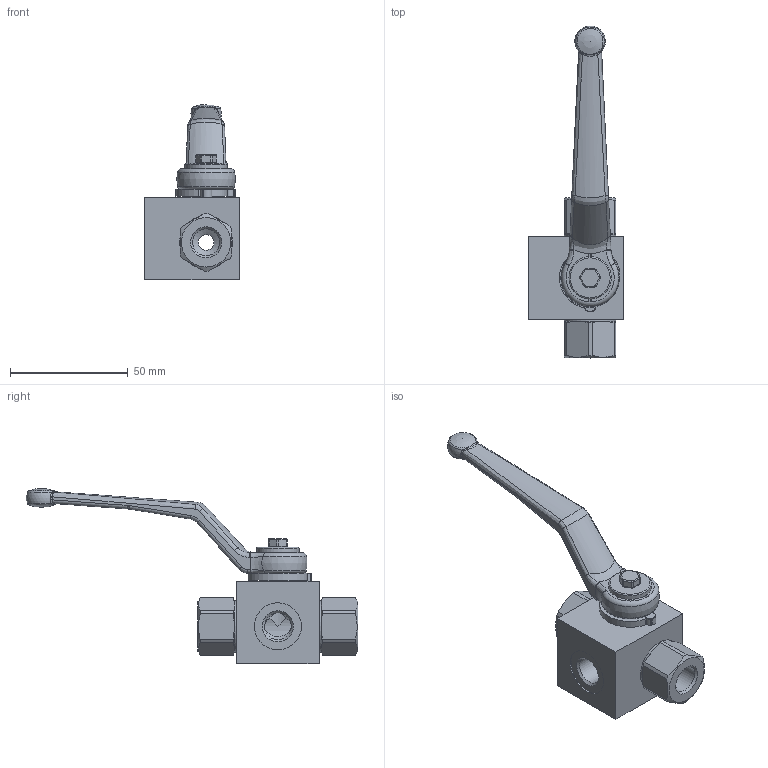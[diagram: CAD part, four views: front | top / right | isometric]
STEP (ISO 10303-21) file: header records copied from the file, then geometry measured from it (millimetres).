
FILE_DESCRIPTION( ( 'Unknown' ), '1' );
FILE_NAME( 'H:/PISTER/3D-MODELLE/BK3-Edelstahl stp/BK3-Edelst DN6 G1_4.stp', 'Unknown', ( 'Unknown' ), ( 'Unknown' ), 'PSStep 14.0', 'Unknown', ' ' );
FILE_SCHEMA( ( 'AUTOMOTIVE_DESIGN { 1 0 10303 214 1 1 1 1 }' ) );
Length unit declared in the file: millimetre
Products named in the file (10): Assem1; 56-032-337-oa5; 09-09-003; 58-28740-16-oa6; 58-0440-009; 06-008-007-oa8; 04-006-027-oa9; 04-006-027-oa10; Griff_SW9; 01-008-019-oa11
Assembly tree (9 placements, depth 2):
  Assem1
    56-032-337-oa5
    09-09-003
    58-28740-16-oa6
    58-0440-009
    06-008-007-oa8
    04-006-027-oa9
    04-006-027-oa10
    Griff_SW9
    01-008-019-oa11
Bounding box: 40 x 141 x 74.4 mm (x, y, z)
Volume: 56893.9 mm3; surface area: 24020.2 mm2
Topology: 9 solids, 9 shells, 319 faces, 796 edges, 498 vertices
Faces by surface type: plane 109, cylinder 108, bspline 36, cone 32, torus 30, sphere 4
Full cylindrical faces by diameter (mm): 4.134 x1, 4.98 x1, 5 x1, 5.8 x1, 11.445 x3, 11.6 x2, 14 x2, 18 x1, 20 x1, 21 x4, 22 x2, 22.5 x2
Entity records: 13656 total; most frequent: CARTESIAN_POINT 3853, DIRECTION 1463, ORIENTED_EDGE 1452, EDGE_CURVE 726, AXIS2_PLACEMENT_3D 590, VERTEX_POINT 473, EDGE_LOOP 383, FACE_OUTER_BOUND 346
